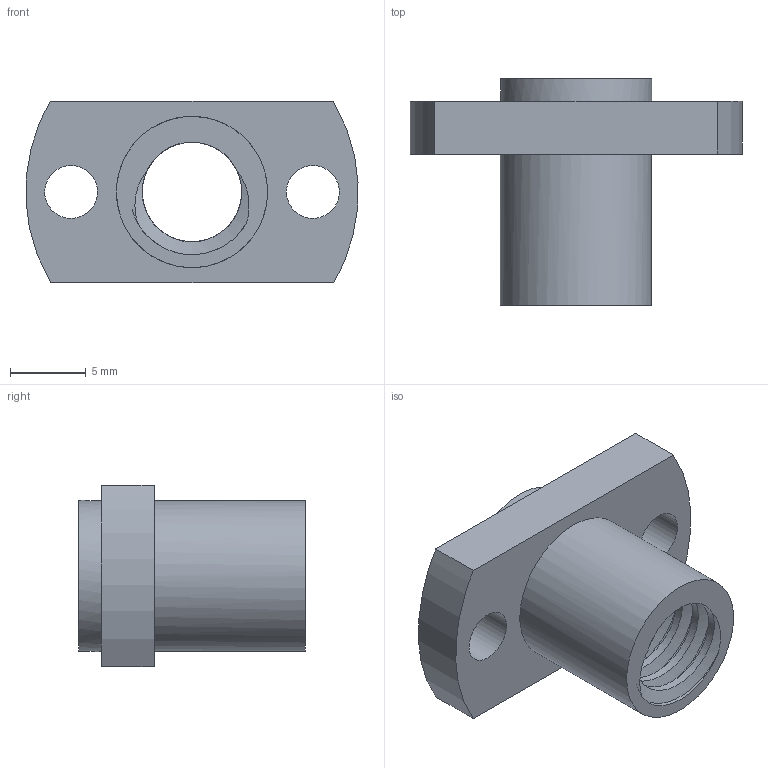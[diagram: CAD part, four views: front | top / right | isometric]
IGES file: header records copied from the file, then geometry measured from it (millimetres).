
Global section: file name: T8 Nut; native system: unknown; preprocessor: unknown; author: unknown; organization: unknown; date: 20211113.004928; units: millimetre
Bounding box: 21.97 x 15 x 12 mm (x, y, z)
Volume: 1056.5 mm3; surface area: 1695 mm2
Topology: 1 solids, 1 shells, 16 faces, 36 edges, 24 vertices
Faces by surface type: bspline 16
